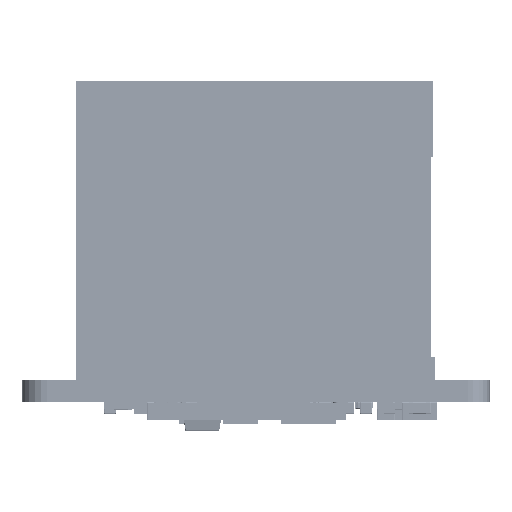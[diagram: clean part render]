
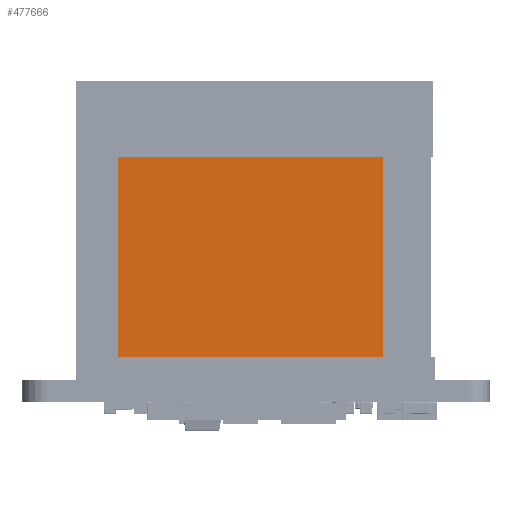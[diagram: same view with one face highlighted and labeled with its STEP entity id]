
A CAD part, front view. The second image highlights one B-rep face of the part: STEP entity #477666.
In plain terms, the highlighted planar face has unit normal (0, -1, 0).
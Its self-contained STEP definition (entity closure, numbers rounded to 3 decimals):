
#477373 = PLANE('',#477374);
#477374 = AXIS2_PLACEMENT_3D('',#477375,#477376,#477377);
#477375 = CARTESIAN_POINT('',(-7.976,10.732,13.4));
#477376 = DIRECTION('',(0.,0.,1.));
#477377 = DIRECTION('',(1.,0.,0.));
#477427 = PLANE('',#477428);
#477428 = AXIS2_PLACEMENT_3D('',#477429,#477430,#477431);
#477429 = CARTESIAN_POINT('',(-7.976,10.732,0.));
#477430 = DIRECTION('',(0.,0.,1.));
#477431 = DIRECTION('',(1.,0.,0.));
#477558 = PLANE('',#477559);
#477559 = AXIS2_PLACEMENT_3D('',#477560,#477561,#477562);
#477560 = CARTESIAN_POINT('',(5.842,-10.681,0.));
#477561 = DIRECTION('',(-1.,0.,0.));
#477562 = DIRECTION('',(0.,1.,0.));
#477596 = VERTEX_POINT('',#477597);
#477597 = CARTESIAN_POINT('',(5.842,5.118,13.4));
#477618 = EDGE_CURVE('',#477619,#477596,#477621,.T.);
#477619 = VERTEX_POINT('',#477620);
#477620 = CARTESIAN_POINT('',(5.842,5.118,0.));
#477621 = SURFACE_CURVE('',#477622,(#477626,#477633),.PCURVE_S1.);
#477622 = LINE('',#477623,#477624);
#477623 = CARTESIAN_POINT('',(5.842,5.118,0.));
#477624 = VECTOR('',#477625,1.);
#477625 = DIRECTION('',(0.,0.,1.));
#477626 = PCURVE('',#477558,#477627);
#477627 = DEFINITIONAL_REPRESENTATION('',(#477628),#477632);
#477628 = LINE('',#477629,#477630);
#477629 = CARTESIAN_POINT('',(15.799,0.));
#477630 = VECTOR('',#477631,1.);
#477631 = DIRECTION('',(0.,-1.));
#477632 = ( GEOMETRIC_REPRESENTATION_CONTEXT(2) 
PARAMETRIC_REPRESENTATION_CONTEXT() REPRESENTATION_CONTEXT('2D SPACE',''
  ) );
#477633 = PCURVE('',#477634,#477639);
#477634 = PLANE('',#477635);
#477635 = AXIS2_PLACEMENT_3D('',#477636,#477637,#477638);
#477636 = CARTESIAN_POINT('',(5.842,5.118,0.));
#477637 = DIRECTION('',(0.,-1.,0.));
#477638 = DIRECTION('',(-1.,0.,0.));
#477639 = DEFINITIONAL_REPRESENTATION('',(#477640),#477644);
#477640 = LINE('',#477641,#477642);
#477641 = CARTESIAN_POINT('',(0.,0.));
#477642 = VECTOR('',#477643,1.);
#477643 = DIRECTION('',(0.,-1.));
#477644 = ( GEOMETRIC_REPRESENTATION_CONTEXT(2) 
PARAMETRIC_REPRESENTATION_CONTEXT() REPRESENTATION_CONTEXT('2D SPACE',''
  ) );
#477666 = ADVANCED_FACE('',(#477667),#477634,.T.);
#477667 = FACE_BOUND('',#477668,.T.);
#477668 = EDGE_LOOP('',(#477669,#477670,#477693,#477721));
#477669 = ORIENTED_EDGE('',*,*,#477618,.T.);
#477670 = ORIENTED_EDGE('',*,*,#477671,.T.);
#477671 = EDGE_CURVE('',#477596,#477672,#477674,.T.);
#477672 = VERTEX_POINT('',#477673);
#477673 = CARTESIAN_POINT('',(-6.071,5.118,13.4));
#477674 = SURFACE_CURVE('',#477675,(#477679,#477686),.PCURVE_S1.);
#477675 = LINE('',#477676,#477677);
#477676 = CARTESIAN_POINT('',(5.842,5.118,13.4));
#477677 = VECTOR('',#477678,1.);
#477678 = DIRECTION('',(-1.,0.,0.));
#477679 = PCURVE('',#477634,#477680);
#477680 = DEFINITIONAL_REPRESENTATION('',(#477681),#477685);
#477681 = LINE('',#477682,#477683);
#477682 = CARTESIAN_POINT('',(0.,-13.4));
#477683 = VECTOR('',#477684,1.);
#477684 = DIRECTION('',(1.,0.));
#477685 = ( GEOMETRIC_REPRESENTATION_CONTEXT(2) 
PARAMETRIC_REPRESENTATION_CONTEXT() REPRESENTATION_CONTEXT('2D SPACE',''
  ) );
#477686 = PCURVE('',#477373,#477687);
#477687 = DEFINITIONAL_REPRESENTATION('',(#477688),#477692);
#477688 = LINE('',#477689,#477690);
#477689 = CARTESIAN_POINT('',(13.818,-5.613));
#477690 = VECTOR('',#477691,1.);
#477691 = DIRECTION('',(-1.,0.));
#477692 = ( GEOMETRIC_REPRESENTATION_CONTEXT(2) 
PARAMETRIC_REPRESENTATION_CONTEXT() REPRESENTATION_CONTEXT('2D SPACE',''
  ) );
#477693 = ORIENTED_EDGE('',*,*,#477694,.F.);
#477694 = EDGE_CURVE('',#477695,#477672,#477697,.T.);
#477695 = VERTEX_POINT('',#477696);
#477696 = CARTESIAN_POINT('',(-6.071,5.118,0.));
#477697 = SURFACE_CURVE('',#477698,(#477702,#477709),.PCURVE_S1.);
#477698 = LINE('',#477699,#477700);
#477699 = CARTESIAN_POINT('',(-6.071,5.118,0.));
#477700 = VECTOR('',#477701,1.);
#477701 = DIRECTION('',(0.,0.,1.));
#477702 = PCURVE('',#477634,#477703);
#477703 = DEFINITIONAL_REPRESENTATION('',(#477704),#477708);
#477704 = LINE('',#477705,#477706);
#477705 = CARTESIAN_POINT('',(11.913,0.));
#477706 = VECTOR('',#477707,1.);
#477707 = DIRECTION('',(0.,-1.));
#477708 = ( GEOMETRIC_REPRESENTATION_CONTEXT(2) 
PARAMETRIC_REPRESENTATION_CONTEXT() REPRESENTATION_CONTEXT('2D SPACE',''
  ) );
#477709 = PCURVE('',#477710,#477715);
#477710 = PLANE('',#477711);
#477711 = AXIS2_PLACEMENT_3D('',#477712,#477713,#477714);
#477712 = CARTESIAN_POINT('',(-6.071,5.118,0.));
#477713 = DIRECTION('',(1.,0.,0.));
#477714 = DIRECTION('',(0.,-1.,0.));
#477715 = DEFINITIONAL_REPRESENTATION('',(#477716),#477720);
#477716 = LINE('',#477717,#477718);
#477717 = CARTESIAN_POINT('',(0.,0.));
#477718 = VECTOR('',#477719,1.);
#477719 = DIRECTION('',(0.,-1.));
#477720 = ( GEOMETRIC_REPRESENTATION_CONTEXT(2) 
PARAMETRIC_REPRESENTATION_CONTEXT() REPRESENTATION_CONTEXT('2D SPACE',''
  ) );
#477721 = ORIENTED_EDGE('',*,*,#477722,.F.);
#477722 = EDGE_CURVE('',#477619,#477695,#477723,.T.);
#477723 = SURFACE_CURVE('',#477724,(#477728,#477735),.PCURVE_S1.);
#477724 = LINE('',#477725,#477726);
#477725 = CARTESIAN_POINT('',(5.842,5.118,0.));
#477726 = VECTOR('',#477727,1.);
#477727 = DIRECTION('',(-1.,0.,0.));
#477728 = PCURVE('',#477634,#477729);
#477729 = DEFINITIONAL_REPRESENTATION('',(#477730),#477734);
#477730 = LINE('',#477731,#477732);
#477731 = CARTESIAN_POINT('',(0.,0.));
#477732 = VECTOR('',#477733,1.);
#477733 = DIRECTION('',(1.,0.));
#477734 = ( GEOMETRIC_REPRESENTATION_CONTEXT(2) 
PARAMETRIC_REPRESENTATION_CONTEXT() REPRESENTATION_CONTEXT('2D SPACE',''
  ) );
#477735 = PCURVE('',#477427,#477736);
#477736 = DEFINITIONAL_REPRESENTATION('',(#477737),#477741);
#477737 = LINE('',#477738,#477739);
#477738 = CARTESIAN_POINT('',(13.818,-5.613));
#477739 = VECTOR('',#477740,1.);
#477740 = DIRECTION('',(-1.,0.));
#477741 = ( GEOMETRIC_REPRESENTATION_CONTEXT(2) 
PARAMETRIC_REPRESENTATION_CONTEXT() REPRESENTATION_CONTEXT('2D SPACE',''
  ) );
